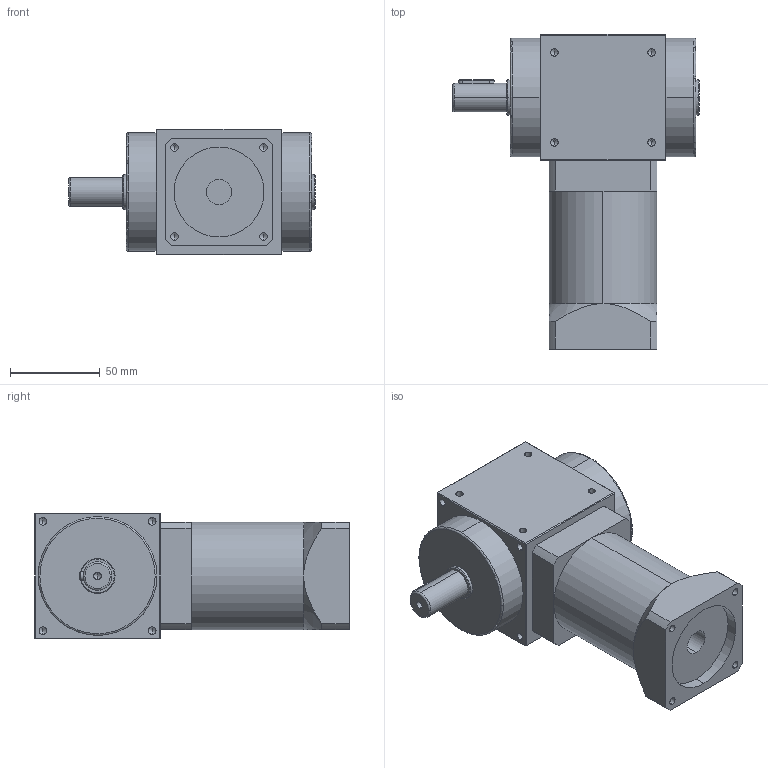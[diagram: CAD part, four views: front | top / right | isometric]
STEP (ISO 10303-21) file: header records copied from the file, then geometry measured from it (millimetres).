
FILE_DESCRIPTION (( 'STEP AP214' ), '1' );
FILE_NAME ('PAW070A-L2-2P(12-100) 14-50-70-M5.STEP', '2020-12-04T07:20:54', ( '微软用户' ), ( '微软中国' ), 'SwSTEP 2.0', 'SolidWorks 2014', '' );
FILE_SCHEMA (( 'AUTOMOTIVE_DESIGN' ));
Length unit declared in the file: millimetre
Products named in the file (2): PAW070A-L2-2P(12-100) 14-50-70-M5
Bounding box: 137 x 175 x 70 mm (x, y, z)
Volume: 763673.1 mm3; surface area: 73528.5 mm2
Topology: 2 solids, 2 shells, 213 faces, 510 edges, 277 vertices
Faces by surface type: cylinder 94, cone 60, plane 53, torus 6
Entity records: 9527 total; most frequent: CARTESIAN_POINT 2474, DIRECTION 1018, ORIENTED_EDGE 920, EDGE_CURVE 460, AXIS2_PLACEMENT_3D 393, VERTEX_POINT 277, EDGE_LOOP 247, LINE 232
